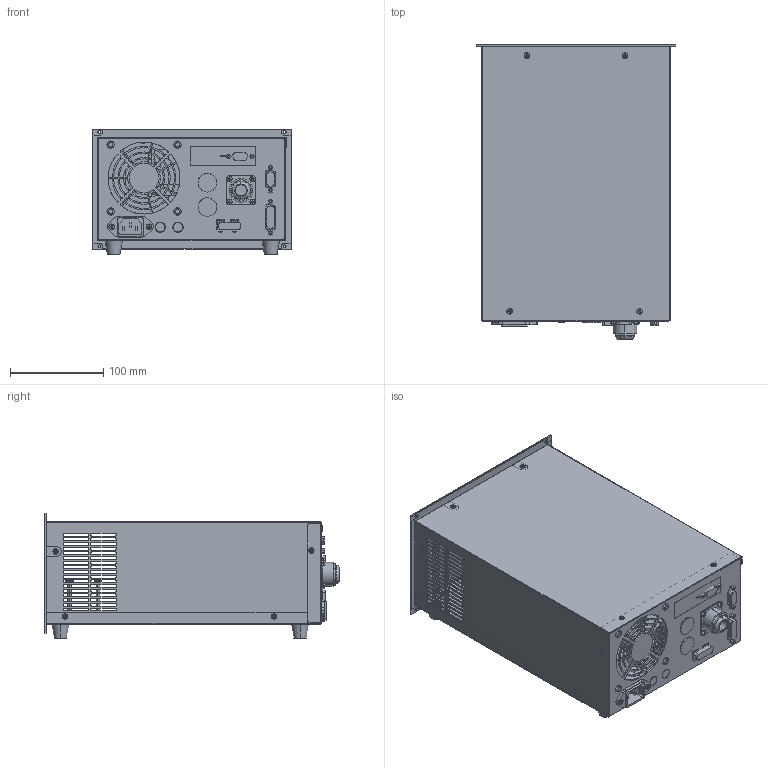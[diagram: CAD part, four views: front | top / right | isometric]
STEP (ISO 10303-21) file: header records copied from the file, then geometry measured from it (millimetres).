
FILE_DESCRIPTION (( 'STEP AP214' ), '1' );
FILE_NAME ('CNTR RACKX3501-64006.STEP', '2017-09-22T13:02:51', ( '' ), ( '' ), 'SwSTEP 2.0', 'SolidWorks 2017', '' );
FILE_SCHEMA (( 'AUTOMOTIVE_DESIGN' ));
Length unit declared in the file: millimetre
Products named in the file (1): CNTR RACKX3501-64006
Bounding box: 213 x 315.1 x 134.5 mm (x, y, z)
Volume: 515222.1 mm3; surface area: 575509 mm2
Topology: 84 solids, 85 shells, 5174 faces, 13883 edges, 9204 vertices
Faces by surface type: plane 2769, cylinder 1129, bspline 1106, cone 132, torus 38
Entity records: 177295 total; most frequent: CARTESIAN_POINT 50276, ORIENTED_EDGE 27766, DIRECTION 21957, EDGE_CURVE 13883, VERTEX_POINT 9204, VECTOR 8627, LINE 8627, AXIS2_PLACEMENT_3D 6665
